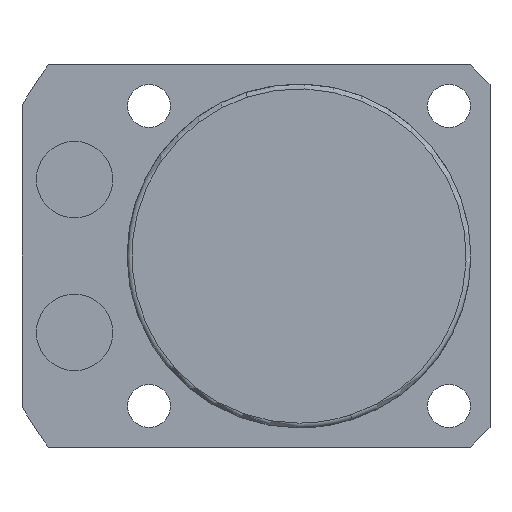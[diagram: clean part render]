
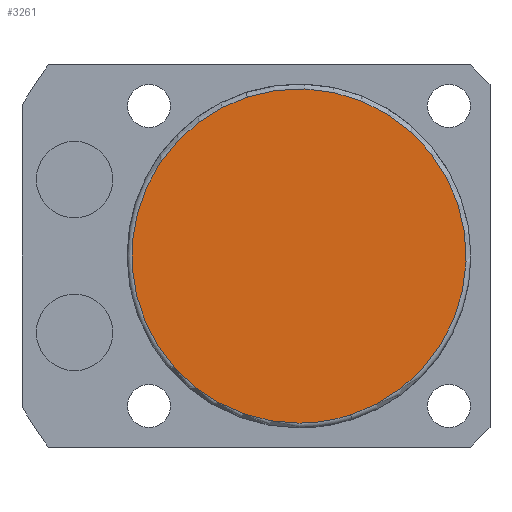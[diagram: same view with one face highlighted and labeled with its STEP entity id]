
A CAD part, front view. The second image highlights one B-rep face of the part: STEP entity #3261.
In plain terms, the highlighted planar face has unit normal (0, -1, 0).
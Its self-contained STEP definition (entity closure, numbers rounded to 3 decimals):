
#3194=CARTESIAN_POINT('',(5.408,-50.5,-16.643));
#3195=VERTEX_POINT('',#3194);
#3213=CARTESIAN_POINT('',(-5.408,-50.5,16.643));
#3214=VERTEX_POINT('',#3213);
#3222=CARTESIAN_POINT('',(0.0,-50.5,0.0));
#3223=DIRECTION('',(0.0,-1.0,0.0));
#3224=DIRECTION('',(0.0,0.0,-1.0));
#3225=AXIS2_PLACEMENT_3D('',#3222,#3223,#3224);
#3226=CIRCLE('',#3225,17.5);
#3227=EDGE_CURVE('no 2442',#3195,#3214,#3226,.T.);
#3237=CARTESIAN_POINT('',(0.0,-50.5,-17.5));
#3238=VERTEX_POINT('',#3237);
#3239=CARTESIAN_POINT('',(0.0,-50.5,0.0));
#3240=DIRECTION('',(0.0,-1.0,0.0));
#3241=DIRECTION('',(0.0,0.0,-1.0));
#3242=AXIS2_PLACEMENT_3D('',#3239,#3240,#3241);
#3243=CIRCLE('',#3242,17.5);
#3244=EDGE_CURVE('no 2451',#3238,#3195,#3243,.T.);
#3245=ORIENTED_EDGE('',*,*,#3244,.T.);
#3246=ORIENTED_EDGE('',*,*,#3227,.T.);
#3247=CARTESIAN_POINT('',(0.0,-50.5,0.0));
#3248=DIRECTION('',(0.0,-1.0,0.0));
#3249=DIRECTION('',(0.0,0.0,-1.0));
#3250=AXIS2_PLACEMENT_3D('',#3247,#3248,#3249);
#3251=CIRCLE('',#3250,17.5);
#3252=EDGE_CURVE('no 2457',#3214,#3238,#3251,.T.);
#3253=ORIENTED_EDGE('',*,*,#3252,.T.);
#3254=EDGE_LOOP('',(#3245,#3246,#3253));
#3255=FACE_OUTER_BOUND('',#3254,.T.);
#3256=CARTESIAN_POINT('',(0.0,-50.5,0.0));
#3257=DIRECTION('',(0.0,-1.0,0.0));
#3258=DIRECTION('',(0.0,0.0,-1.0));
#3259=AXIS2_PLACEMENT_3D('',#3256,#3257,#3258);
#3260=PLANE('',#3259);
#3261=ADVANCED_FACE('no 2444',(#3255),#3260,.T.);
